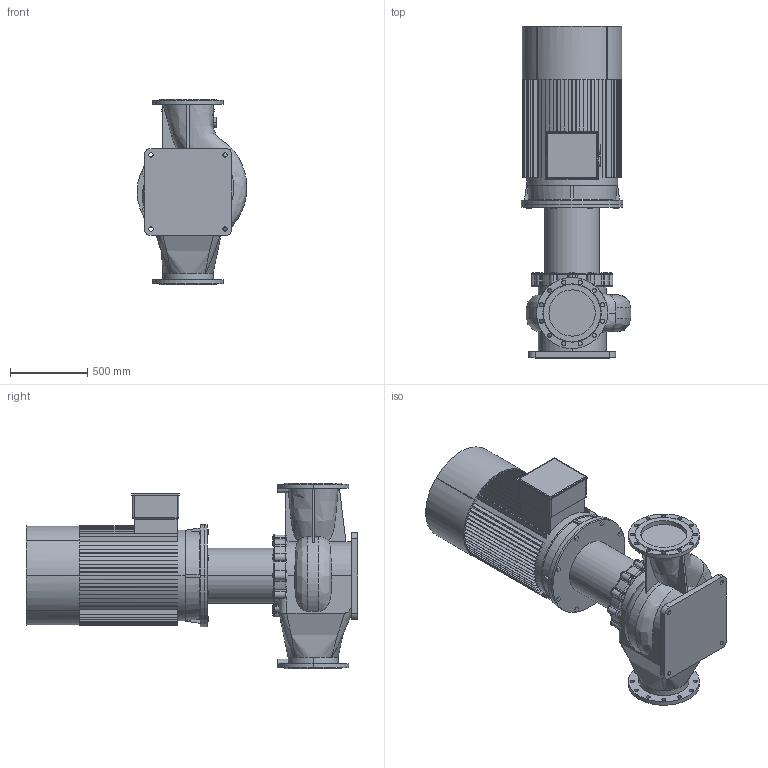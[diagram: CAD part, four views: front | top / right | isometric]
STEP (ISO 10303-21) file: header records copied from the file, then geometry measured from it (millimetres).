
FILE_DESCRIPTION (( 'STEP AP203' ), '1' );
FILE_NAME ('TD300-55_4.STEP', '2022-05-02T18:20:15', ( '' ), ( '' ), 'SwSTEP 2.0', 'SolidWorks 2019', '' );
FILE_SCHEMA (( 'CONFIG_CONTROL_DESIGN' ));
Length unit declared in the file: millimetre
Products named in the file (4): ED_B5_YE2-315L2-4 (200); TD300-55_4; Pr_ch 300_TD300-55_4; Fon_300_TD300-55_4
Assembly tree (3 placements, depth 2):
  TD300-55_4
    Pr_ch 300_TD300-55_4
    Fon_300_TD300-55_4
    ED_B5_YE2-315L2-4 (200)
Bounding box: 711 x 2150 x 1200 mm (x, y, z)
Volume: 571564441.6 mm3; surface area: 10644499.9 mm2
Topology: 5 solids, 5 shells, 882 faces, 2433 edges, 1600 vertices
Faces by surface type: plane 552, cylinder 239, torus 48, bspline 28, cone 15
Entity records: 37027 total; most frequent: CARTESIAN_POINT 13495, DIRECTION 4892, ORIENTED_EDGE 4858, EDGE_CURVE 2429, AXIS2_PLACEMENT_3D 1720, VERTEX_POINT 1600, VECTOR 1452, LINE 1452
